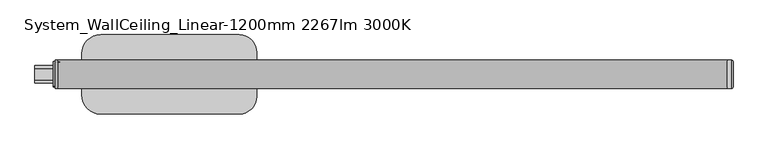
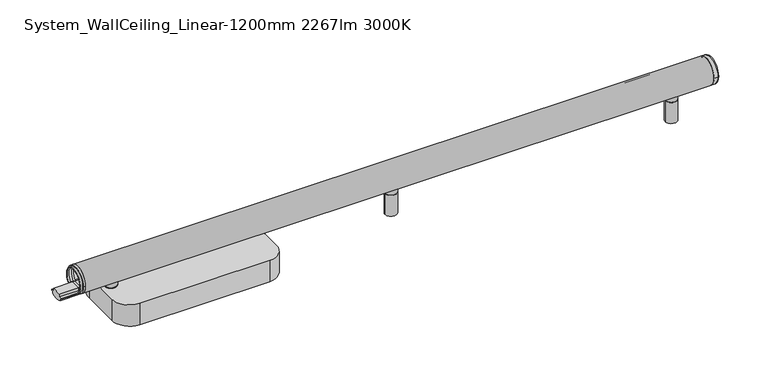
"""IFC4 building model written with IfcOpenShell, lengths in millimetres: light fixture geometry, ARTEMIDE-AoL-System-Linear_WallCeiling_US : System_WallCeiling_Linear-1200mm 2267lm 3000K."""

from ifc_helpers import new_model, si_unit, point, frame, frame_2d, origin, origin_with_axes, place, context, project, spatial, polyline, circle_curve, ellipse_curve, trimmed, segment, composite_curve, outline, extrude, source, transform, mapped, element, save
from ifc_brep_helpers import plane_surface, cylinder_surface, revolved_surface, advanced_brep


def system_wallceiling_linear_1200mm_2267lm_3000k_d70ca6ef(model_context):
    return source(origin(), model_context, "Body", "SolidModel", [
        advanced_brep(
        [(-2.0, 25.0245983, 74.9754017), (-2.0, -25.0245983, 74.9754017), (-2.0, -9.5062575, 60.6916114), (-2.0, -9.5062575, 64.3781516), (-2.0, 9.5062575, 64.3781516), (-2.0, 9.5062575, 60.6916114), (-2.0, 15.4273739, 60.6916114), (-2.0, 17.2867732, 60.6916114), (-2.0, -17.2867732, 60.6916114), (-2.0, -15.4273739, 60.6916114), (2.0, 25.0245983, 74.9754017), (2.0, -25.0245983, 74.9754017), (2.0, -9.5062575, 60.6916114), (2.0, -15.4273739, 60.6916114), (2.0, -17.2867732, 60.6916114), (2.0, 17.2867732, 60.6916114), (2.0, 15.4273739, 60.6916114), (2.0, 9.5062575, 60.6916114), (2.0, 9.5062575, 64.3781516), (2.0, -9.5062575, 64.3781516), (-6.0, -15.4273739, 60.6916114), (-6.0, -17.2867732, 60.6916114), (-6.0, 17.2867732, 60.6916114), (-6.0, 15.4273739, 60.6916114), (6.0, -15.4273739, 60.6916114), (6.0, 15.4273739, 60.6916114), (6.0, 17.2867732, 60.6916114), (6.0, -17.2867732, 60.6916114)],
        [
            (0, 1, circle_curve(frame((-2.0, 0.0, 74.9754017), z_axis=(-1.0, 0.0, 0.0), x_axis=(0.0, -1.0, 0.0)), 25.0245983)),
            (1, 0, circle_curve(frame((-2.0, 0.0, 74.9754017), z_axis=(-1.0, 0.0, 0.0), x_axis=(0.0, -1.0, 0.0)), 25.0245983)),
            (2, 3),
            (3, 4),
            (4, 5),
            (5, 6),
            (6, 7),
            (7, 8, circle_curve(frame((-2.0, 0.0, 74.9754017), z_axis=(1.0, 0.0, 0.0), x_axis=(0.0, -1.0, 0.0)), 22.4245221)),
            (8, 9),
            (9, 2),
            (10, 11, circle_curve(frame((2.0, 0.0, 74.9754017), z_axis=(1.0, 0.0, 0.0), x_axis=(0.0, -1.0, 0.0)), 25.0245983)),
            (11, 10, circle_curve(frame((2.0, 0.0, 74.9754017), z_axis=(1.0, 0.0, 0.0), x_axis=(0.0, -1.0, 0.0)), 25.0245983)),
            (12, 13),
            (13, 14),
            (14, 15, circle_curve(frame((2.0, 0.0, 74.9754017), z_axis=(-1.0, 0.0, 0.0), x_axis=(0.0, -1.0, 0.0)), 22.4245221)),
            (15, 16),
            (16, 17),
            (17, 18),
            (18, 19),
            (19, 12),
            (5, 17),
            (16, 6),
            (9, 13),
            (12, 2),
            (19, 3),
            (0, 10),
            (11, 1),
            (16, 13, circle_curve(frame((2.0, 0.0, 74.9754017), z_axis=(1.0, 0.0, 0.0), x_axis=(0.0, -1.0, 0.0)), 21.0245221)),
            (9, 6, circle_curve(frame((-2.0, 0.0, 74.9754017), z_axis=(-1.0, 0.0, 0.0), x_axis=(0.0, -1.0, 0.0)), 21.0245221)),
            (20, 21),
            (21, 22, circle_curve(frame((-6.0, 0.0, 74.9754017), z_axis=(-1.0, 0.0, 0.0), x_axis=(0.0, -1.0, 0.0)), 22.4245221)),
            (22, 23),
            (23, 20, circle_curve(frame((-6.0, 0.0, 74.9754017), z_axis=(1.0, 0.0, 0.0), x_axis=(0.0, -1.0, 0.0)), 21.0245221)),
            (24, 25, circle_curve(frame((6.0, 0.0, 74.9754017), z_axis=(-1.0, 0.0, 0.0), x_axis=(0.0, -1.0, 0.0)), 21.0245221)),
            (25, 26),
            (26, 27, circle_curve(frame((6.0, 0.0, 74.9754017), z_axis=(1.0, 0.0, 0.0), x_axis=(0.0, -1.0, 0.0)), 22.4245221)),
            (27, 24),
            (23, 6),
            (9, 20),
            (24, 13),
            (16, 25),
            (8, 21),
            (27, 14),
            (7, 22),
            (26, 15),
            (18, 4),
        ],
        [
            plane_surface(frame((-2.0, 0.0, 74.9754017), z_axis=(-1.0, 0.0, 0.0), x_axis=(0.0, 0.0, -1.0))),
            plane_surface(frame((2.0, 0.0, 74.9754017), z_axis=(1.0, 0.0, 0.0), x_axis=(0.0, 0.0, -1.0))),
            plane_surface(frame((-2.0, 9.5062575, 60.6916114), z_axis=(0.0, 0.0, 1.0), x_axis=(1.0, 0.0, 0.0))),
            plane_surface(frame((-2.0, -15.4273739, 60.6916114), z_axis=(0.0, 0.0, 1.0), x_axis=(1.0, 0.0, 0.0))),
            plane_surface(frame((-2.0, -9.5062575, 60.6916114), z_axis=(0.0, -1.0, 0.0), x_axis=(1.0, 0.0, 0.0))),
            cylinder_surface(frame((-2.0, 0.0, 74.9754017), z_axis=(-1.0, 0.0, 0.0), x_axis=(0.0, -1.0, 0.0)), 25.0245983),
            revolved_surface(polyline([(2.0, -21.0245221, 74.9754017), (-2.0, -21.0245221, 74.9754017)]), (-2.0, 0.0, 74.9754017), (1.0, 0.0, 0.0)),
            plane_surface(frame((-6.0, 0.0, 74.9754017), z_axis=(-1.0, 0.0, 0.0), x_axis=(0.0, 0.0, -1.0))),
            plane_surface(frame((6.0, 0.0, 74.9754017), z_axis=(1.0, 0.0, 0.0), x_axis=(0.0, 0.0, -1.0))),
            revolved_surface(polyline([(-2.0, -21.0245221, 74.9754017), (-6.0, -21.0245221, 74.9754017)]), (-6.0, 0.0, 74.9754017), (1.0, 0.0, 0.0)),
            revolved_surface(polyline([(6.0, -21.0245221, 74.9754017), (2.0, -21.0245221, 74.9754017)]), (-6.0, 0.0, 74.9754017), (1.0, 0.0, 0.0)),
            plane_surface(frame((-6.0, -15.4273739, 60.6916114), z_axis=(0.0, 0.0, -1.0), x_axis=(1.0, 0.0, 0.0))),
            cylinder_surface(frame((-6.0, 0.0, 74.9754017), z_axis=(-1.0, 0.0, 0.0), x_axis=(0.0, -1.0, 0.0)), 22.4245221),
            plane_surface(frame((-6.0, 17.2867732, 60.6916114), z_axis=(0.0, 0.0, -1.0), x_axis=(1.0, 0.0, 0.0))),
            plane_surface(frame((-2.0, -9.5062575, 64.3781516), z_axis=(0.0, 0.0, 1.0), x_axis=(1.0, 0.0, 0.0))),
            plane_surface(frame((-2.0, 9.5062575, 64.3781516), z_axis=(0.0, 1.0, 0.0), x_axis=(1.0, 0.0, 0.0))),
        ],
        [
            (0, [[1, 2], [3, 4, 5, 6, 7, 8, 9, 10]]),
            (1, [[11, 12], [13, 14, 15, 16, 17, 18, 19, 20]]),
            (2, [[-6, 21, -17, 22]]),
            (3, [[-10, 23, -13, 24]]),
            (4, [[-3, -24, -20, 25]]),
            (5, [[-1, 26, -12, 27]]),
            (6, [[-22, 28, -23, 29]]),
            (7, [[30, 31, 32, 33]]),
            (8, [[34, 35, 36, 37]]),
            (9, [[-33, 38, -29, 39]]),
            (10, [[-34, 40, -28, 41]]),
            (11, [[-30, -39, -9, 42]]),
            (11, [[-37, 43, -14, -40]]),
            (12, [[-31, -42, -8, 44]]),
            (12, [[-36, 45, -15, -43]]),
            (13, [[-32, -44, -7, -38]]),
            (13, [[-35, -41, -16, -45]]),
            (5, [[-2, -27, -11, -26]]),
            (14, [[-4, -25, -19, 46]]),
            (15, [[-5, -46, -18, -21]]),
        ],
    ),
        extrude(outline(composite_curve([segment(polyline([(-11.75, 57.2067494), (-15.304087, 57.2067494), (-15.304087, 58.7367744), (-9.5062575, 58.7367744), (-9.5062575, 64.3781516), (9.5062575, 64.3781516), (9.5062575, 58.7367744), (15.304087, 58.7367744), (15.304087, 57.2067494), (11.75, 57.2067494), (11.75, 52.880877)]), True, "CONTINUOUS"), segment(trimmed(circle_curve(frame_2d((0.0, 74.9754017)), 25.0245983), [point((11.75, 52.880877))], [point((-11.75, 52.880877))], False, "CARTESIAN"), True, "CONTINUOUS"), segment(polyline([(-11.75, 52.880877), (-11.75, 57.2067494)]), True, "CONTINUOUS")], self_intersect=False)), frame((2.0, 0.0, 0.0), z_axis=(1.0, 0.0, 0.0), x_axis=(0.0, 1.0, 0.0)), (0.0, 0.0, 1.0), 36.0),
        extrude(outline(composite_curve([segment(polyline([(-11.75, 57.2067494), (-15.304087, 57.2067494), (-15.304087, 58.7367744), (-9.5062575, 58.7367744), (-9.5062575, 64.3781516), (9.5062575, 64.3781516), (9.5062575, 58.7367744), (15.304087, 58.7367744), (15.304087, 57.2067494), (11.75, 57.2067494), (11.75, 52.880877)]), True, "CONTINUOUS"), segment(trimmed(circle_curve(frame_2d((0.0, 74.9754017)), 25.0245983), [point((11.75, 52.880877))], [point((-11.75, 52.880877))], False, "CARTESIAN"), True, "CONTINUOUS"), segment(polyline([(-11.75, 52.880877), (-11.75, 57.2067494)]), True, "CONTINUOUS")], self_intersect=False)), frame((-38.0, 0.0, 0.0), z_axis=(1.0, 0.0, 0.0), x_axis=(0.0, 1.0, 0.0)), (0.0, 0.0, 1.0), 36.0),
        advanced_brep(
        [(585.3054564, 0.0, 1.0), (594.6945436, 0.0, 1.0), (594.6945436, 0.0, 0.0), (585.3054564, 0.0, 0.0), (578.8054564, 0.0, 1.0), (601.1945436, 0.0, 1.0), (578.8054564, 0.0, 42.5), (601.1945436, 0.0, 42.5), (581.2810808, 0.0, 42.5), (598.7189192, 0.0, 42.5), (581.2810808, 0.0, 43.4995055), (598.7189192, 0.0, 43.4995055), (578.8054564, 0.0, 43.4995055), (601.1945436, 0.0, 43.4995055), (578.8054564, 0.0, 52.9333396), (601.1945436, 0.0, 52.9333396), (590.0, 0.0, 52.9333396), (590.0, 0.0, 0.0)],
        [
            (0, 1, circle_curve(frame((590.0, 0.0, 1.0), z_axis=(0.0, 0.0, -1.0), x_axis=(1.0, 0.0, 0.0)), 4.6945436)),
            (1, 2),
            (2, 3, circle_curve(frame((590.0, 0.0, 0.0), z_axis=(0.0, 0.0, 1.0), x_axis=(1.0, 0.0, 0.0)), 4.6945436)),
            (3, 0),
            (1, 0, circle_curve(frame((590.0, 0.0, 1.0), z_axis=(0.0, 0.0, -1.0), x_axis=(1.0, 0.0, 0.0)), 4.6945436)),
            (3, 2, circle_curve(frame((590.0, 0.0, 0.0), z_axis=(0.0, 0.0, 1.0), x_axis=(1.0, 0.0, 0.0)), 4.6945436)),
            (4, 5, circle_curve(frame((590.0, 0.0, 1.0), z_axis=(0.0, 0.0, -1.0), x_axis=(1.0, 0.0, 0.0)), 11.1945436)),
            (5, 1),
            (0, 4),
            (5, 4, circle_curve(frame((590.0, 0.0, 1.0), z_axis=(0.0, 0.0, -1.0), x_axis=(1.0, 0.0, 0.0)), 11.1945436)),
            (6, 7, circle_curve(frame((590.0, 0.0, 42.5), z_axis=(0.0, 0.0, -1.0), x_axis=(1.0, 0.0, 0.0)), 11.1945436)),
            (7, 5),
            (4, 6),
            (7, 6, circle_curve(frame((590.0, 0.0, 42.5), z_axis=(0.0, 0.0, -1.0), x_axis=(1.0, 0.0, 0.0)), 11.1945436)),
            (8, 9, circle_curve(frame((590.0, 0.0, 42.5), z_axis=(0.0, 0.0, -1.0), x_axis=(1.0, 0.0, 0.0)), 8.7189192)),
            (9, 7),
            (6, 8),
            (9, 8, circle_curve(frame((590.0, 0.0, 42.5), z_axis=(0.0, 0.0, -1.0), x_axis=(1.0, 0.0, 0.0)), 8.7189192)),
            (10, 11, circle_curve(frame((590.0, 0.0, 43.4995055), z_axis=(0.0, 0.0, -1.0), x_axis=(1.0, 0.0, 0.0)), 8.7189192)),
            (11, 9),
            (8, 10),
            (11, 10, circle_curve(frame((590.0, 0.0, 43.4995055), z_axis=(0.0, 0.0, -1.0), x_axis=(1.0, 0.0, 0.0)), 8.7189192)),
            (12, 13, circle_curve(frame((590.0, 0.0, 43.4995055), z_axis=(0.0, 0.0, -1.0), x_axis=(1.0, 0.0, 0.0)), 11.1945436)),
            (13, 11),
            (10, 12),
            (13, 12, circle_curve(frame((590.0, 0.0, 43.4995055), z_axis=(0.0, 0.0, -1.0), x_axis=(1.0, 0.0, 0.0)), 11.1945436)),
            (14, 15, circle_curve(frame((590.0, 0.0, 52.9333396), z_axis=(0.0, 0.0, -1.0), x_axis=(1.0, 0.0, 0.0)), 11.1945436)),
            (15, 13),
            (12, 14),
            (15, 14, circle_curve(frame((590.0, 0.0, 52.9333396), z_axis=(0.0, 0.0, -1.0), x_axis=(1.0, 0.0, 0.0)), 11.1945436)),
            (16, 15),
            (14, 16),
            (2, 17),
            (17, 3),
        ],
        [
            cylinder_surface(frame((590.0, 0.0, -58.83358), z_axis=(0.0, 0.0, 1.0), x_axis=(1.0, 0.0, 0.0)), 4.6945436),
            plane_surface(frame((590.0, 0.0, 1.0), z_axis=(0.0, 0.0, -1.0), x_axis=(1.0, 0.0, 0.0))),
            cylinder_surface(frame((590.0, 0.0, -58.83358), z_axis=(0.0, 0.0, 1.0), x_axis=(1.0, 0.0, 0.0)), 11.1945436),
            plane_surface(frame((590.0, 0.0, 42.5), z_axis=(0.0, 0.0, 1.0), x_axis=(1.0, 0.0, 0.0))),
            cylinder_surface(frame((590.0, 0.0, -58.83358), z_axis=(0.0, 0.0, 1.0), x_axis=(1.0, 0.0, 0.0)), 8.7189192),
            plane_surface(frame((590.0, 0.0, 43.4995055), z_axis=(0.0, 0.0, -1.0), x_axis=(1.0, 0.0, 0.0))),
            plane_surface(frame((590.0, 0.0, 52.9333396), z_axis=(0.0, 0.0, 1.0), x_axis=(1.0, 0.0, 0.0))),
            plane_surface(frame((590.0, 0.0, 0.0), z_axis=(0.0, 0.0, -1.0), x_axis=(1.0, 0.0, 0.0))),
        ],
        [
            (0, [[1, 2, 3, 4]]),
            (0, [[5, -4, 6, -2]]),
            (1, [[7, 8, -1, 9]]),
            (1, [[10, -9, -5, -8]]),
            (2, [[11, 12, -7, 13]]),
            (2, [[14, -13, -10, -12]]),
            (3, [[15, 16, -11, 17]]),
            (3, [[18, -17, -14, -16]]),
            (4, [[19, 20, -15, 21]]),
            (4, [[22, -21, -18, -20]]),
            (5, [[23, 24, -19, 25]]),
            (5, [[26, -25, -22, -24]]),
            (2, [[27, 28, -23, 29]]),
            (2, [[30, -29, -26, -28]]),
            (6, [[31, -27, 32]]),
            (6, [[-32, -30, -31]]),
            (7, [[-3, 33, 34]]),
            (7, [[-6, -34, -33]]),
        ],
    ),
        advanced_brep(
        [(59.3054564, 0.0, 1.0), (68.6945436, 0.0, 1.0), (68.6945436, 0.0, 0.0), (59.3054564, 0.0, 0.0), (52.8054564, 0.0, 1.0), (75.1945436, 0.0, 1.0), (52.8054564, 0.0, 42.5), (75.1945436, 0.0, 42.5), (55.2810808, 0.0, 42.5), (72.7189192, 0.0, 42.5), (55.2810808, 0.0, 43.4995055), (72.7189192, 0.0, 43.4995055), (52.8054564, 0.0, 43.4995055), (75.1945436, 0.0, 43.4995055), (52.8054564, 0.0, 52.9333396), (75.1945436, 0.0, 52.9333396), (64.0, 0.0, 52.9333396), (64.0, 0.0, 0.0)],
        [
            (0, 1, circle_curve(frame((64.0, 0.0, 1.0), z_axis=(0.0, 0.0, -1.0), x_axis=(1.0, 0.0, 0.0)), 4.6945436)),
            (1, 2),
            (2, 3, circle_curve(frame((64.0, 0.0, 0.0), z_axis=(0.0, 0.0, 1.0), x_axis=(1.0, 0.0, 0.0)), 4.6945436)),
            (3, 0),
            (1, 0, circle_curve(frame((64.0, 0.0, 1.0), z_axis=(0.0, 0.0, -1.0), x_axis=(1.0, 0.0, 0.0)), 4.6945436)),
            (3, 2, circle_curve(frame((64.0, 0.0, 0.0), z_axis=(0.0, 0.0, 1.0), x_axis=(1.0, 0.0, 0.0)), 4.6945436)),
            (4, 5, circle_curve(frame((64.0, 0.0, 1.0), z_axis=(0.0, 0.0, -1.0), x_axis=(1.0, 0.0, 0.0)), 11.1945436)),
            (5, 1),
            (0, 4),
            (5, 4, circle_curve(frame((64.0, 0.0, 1.0), z_axis=(0.0, 0.0, -1.0), x_axis=(1.0, 0.0, 0.0)), 11.1945436)),
            (6, 7, circle_curve(frame((64.0, 0.0, 42.5), z_axis=(0.0, 0.0, -1.0), x_axis=(1.0, 0.0, 0.0)), 11.1945436)),
            (7, 5),
            (4, 6),
            (7, 6, circle_curve(frame((64.0, 0.0, 42.5), z_axis=(0.0, 0.0, -1.0), x_axis=(1.0, 0.0, 0.0)), 11.1945436)),
            (8, 9, circle_curve(frame((64.0, 0.0, 42.5), z_axis=(0.0, 0.0, -1.0), x_axis=(1.0, 0.0, 0.0)), 8.7189192)),
            (9, 7),
            (6, 8),
            (9, 8, circle_curve(frame((64.0, 0.0, 42.5), z_axis=(0.0, 0.0, -1.0), x_axis=(1.0, 0.0, 0.0)), 8.7189192)),
            (10, 11, circle_curve(frame((64.0, 0.0, 43.4995055), z_axis=(0.0, 0.0, -1.0), x_axis=(1.0, 0.0, 0.0)), 8.7189192)),
            (11, 9),
            (8, 10),
            (11, 10, circle_curve(frame((64.0, 0.0, 43.4995055), z_axis=(0.0, 0.0, -1.0), x_axis=(1.0, 0.0, 0.0)), 8.7189192)),
            (12, 13, circle_curve(frame((64.0, 0.0, 43.4995055), z_axis=(0.0, 0.0, -1.0), x_axis=(1.0, 0.0, 0.0)), 11.1945436)),
            (13, 11),
            (10, 12),
            (13, 12, circle_curve(frame((64.0, 0.0, 43.4995055), z_axis=(0.0, 0.0, -1.0), x_axis=(1.0, 0.0, 0.0)), 11.1945436)),
            (14, 15, circle_curve(frame((64.0, 0.0, 52.9333396), z_axis=(0.0, 0.0, -1.0), x_axis=(1.0, 0.0, 0.0)), 11.1945436)),
            (15, 13),
            (12, 14),
            (15, 14, circle_curve(frame((64.0, 0.0, 52.9333396), z_axis=(0.0, 0.0, -1.0), x_axis=(1.0, 0.0, 0.0)), 11.1945436)),
            (16, 15),
            (14, 16),
            (2, 17),
            (17, 3),
        ],
        [
            cylinder_surface(frame((64.0, 0.0, -58.83358), z_axis=(0.0, 0.0, 1.0), x_axis=(1.0, 0.0, 0.0)), 4.6945436),
            plane_surface(frame((64.0, 0.0, 1.0), z_axis=(0.0, 0.0, -1.0), x_axis=(1.0, 0.0, 0.0))),
            cylinder_surface(frame((64.0, 0.0, -58.83358), z_axis=(0.0, 0.0, 1.0), x_axis=(1.0, 0.0, 0.0)), 11.1945436),
            plane_surface(frame((64.0, 0.0, 42.5), z_axis=(0.0, 0.0, 1.0), x_axis=(1.0, 0.0, 0.0))),
            cylinder_surface(frame((64.0, 0.0, -58.83358), z_axis=(0.0, 0.0, 1.0), x_axis=(1.0, 0.0, 0.0)), 8.7189192),
            plane_surface(frame((64.0, 0.0, 43.4995055), z_axis=(0.0, 0.0, -1.0), x_axis=(1.0, 0.0, 0.0))),
            plane_surface(frame((64.0, 0.0, 52.9333396), z_axis=(0.0, 0.0, 1.0), x_axis=(1.0, 0.0, 0.0))),
            plane_surface(frame((64.0, 0.0, 0.0), z_axis=(0.0, 0.0, -1.0), x_axis=(1.0, 0.0, 0.0))),
        ],
        [
            (0, [[1, 2, 3, 4]]),
            (0, [[5, -4, 6, -2]]),
            (1, [[7, 8, -1, 9]]),
            (1, [[10, -9, -5, -8]]),
            (2, [[11, 12, -7, 13]]),
            (2, [[14, -13, -10, -12]]),
            (3, [[15, 16, -11, 17]]),
            (3, [[18, -17, -14, -16]]),
            (4, [[19, 20, -15, 21]]),
            (4, [[22, -21, -18, -20]]),
            (5, [[23, 24, -19, 25]]),
            (5, [[26, -25, -22, -24]]),
            (2, [[27, 28, -23, 29]]),
            (2, [[30, -29, -26, -28]]),
            (6, [[31, -27, 32]]),
            (6, [[-32, -30, -31]]),
            (7, [[-3, 33, 34]]),
            (7, [[-6, -34, -33]]),
        ],
    ),
        advanced_brep(
        [(1111.3054564, 0.0, 1.0), (1120.6945436, 0.0, 1.0), (1120.6945436, 0.0, 0.0), (1111.3054564, 0.0, 0.0), (1104.8054564, 0.0, 1.0), (1127.1945436, 0.0, 1.0), (1104.8054564, 0.0, 42.5), (1127.1945436, 0.0, 42.5), (1107.2810808, 0.0, 42.5), (1124.7189192, 0.0, 42.5), (1107.2810808, 0.0, 43.4995055), (1124.7189192, 0.0, 43.4995055), (1104.8054564, 0.0, 43.4995055), (1127.1945436, 0.0, 43.4995055), (1104.8054564, 0.0, 52.9333396), (1127.1945436, 0.0, 52.9333396), (1116.0, 0.0, 52.9333396), (1116.0, 0.0, 0.0)],
        [
            (0, 1, circle_curve(frame((1116.0, 0.0, 1.0), z_axis=(0.0, 0.0, -1.0), x_axis=(1.0, 0.0, 0.0)), 4.6945436)),
            (1, 2),
            (2, 3, circle_curve(frame((1116.0, 0.0, 0.0), z_axis=(0.0, 0.0, 1.0), x_axis=(1.0, 0.0, 0.0)), 4.6945436)),
            (3, 0),
            (1, 0, circle_curve(frame((1116.0, 0.0, 1.0), z_axis=(0.0, 0.0, -1.0), x_axis=(1.0, 0.0, 0.0)), 4.6945436)),
            (3, 2, circle_curve(frame((1116.0, 0.0, 0.0), z_axis=(0.0, 0.0, 1.0), x_axis=(1.0, 0.0, 0.0)), 4.6945436)),
            (4, 5, circle_curve(frame((1116.0, 0.0, 1.0), z_axis=(0.0, 0.0, -1.0), x_axis=(1.0, 0.0, 0.0)), 11.1945436)),
            (5, 1),
            (0, 4),
            (5, 4, circle_curve(frame((1116.0, 0.0, 1.0), z_axis=(0.0, 0.0, -1.0), x_axis=(1.0, 0.0, 0.0)), 11.1945436)),
            (6, 7, circle_curve(frame((1116.0, 0.0, 42.5), z_axis=(0.0, 0.0, -1.0), x_axis=(1.0, 0.0, 0.0)), 11.1945436)),
            (7, 5),
            (4, 6),
            (7, 6, circle_curve(frame((1116.0, 0.0, 42.5), z_axis=(0.0, 0.0, -1.0), x_axis=(1.0, 0.0, 0.0)), 11.1945436)),
            (8, 9, circle_curve(frame((1116.0, 0.0, 42.5), z_axis=(0.0, 0.0, -1.0), x_axis=(1.0, 0.0, 0.0)), 8.7189192)),
            (9, 7),
            (6, 8),
            (9, 8, circle_curve(frame((1116.0, 0.0, 42.5), z_axis=(0.0, 0.0, -1.0), x_axis=(1.0, 0.0, 0.0)), 8.7189192)),
            (10, 11, circle_curve(frame((1116.0, 0.0, 43.4995055), z_axis=(0.0, 0.0, -1.0), x_axis=(1.0, 0.0, 0.0)), 8.7189192)),
            (11, 9),
            (8, 10),
            (11, 10, circle_curve(frame((1116.0, 0.0, 43.4995055), z_axis=(0.0, 0.0, -1.0), x_axis=(1.0, 0.0, 0.0)), 8.7189192)),
            (12, 13, circle_curve(frame((1116.0, 0.0, 43.4995055), z_axis=(0.0, 0.0, -1.0), x_axis=(1.0, 0.0, 0.0)), 11.1945436)),
            (13, 11),
            (10, 12),
            (13, 12, circle_curve(frame((1116.0, 0.0, 43.4995055), z_axis=(0.0, 0.0, -1.0), x_axis=(1.0, 0.0, 0.0)), 11.1945436)),
            (14, 15, circle_curve(frame((1116.0, 0.0, 52.9333396), z_axis=(0.0, 0.0, -1.0), x_axis=(1.0, 0.0, 0.0)), 11.1945436)),
            (15, 13),
            (12, 14),
            (15, 14, circle_curve(frame((1116.0, 0.0, 52.9333396), z_axis=(0.0, 0.0, -1.0), x_axis=(1.0, 0.0, 0.0)), 11.1945436)),
            (16, 15),
            (14, 16),
            (2, 17),
            (17, 3),
        ],
        [
            cylinder_surface(frame((1116.0, 0.0, -58.83358), z_axis=(0.0, 0.0, 1.0), x_axis=(1.0, 0.0, 0.0)), 4.6945436),
            plane_surface(frame((1116.0, 0.0, 1.0), z_axis=(0.0, 0.0, -1.0), x_axis=(1.0, 0.0, 0.0))),
            cylinder_surface(frame((1116.0, 0.0, -58.83358), z_axis=(0.0, 0.0, 1.0), x_axis=(1.0, 0.0, 0.0)), 11.1945436),
            plane_surface(frame((1116.0, 0.0, 42.5), z_axis=(0.0, 0.0, 1.0), x_axis=(1.0, 0.0, 0.0))),
            cylinder_surface(frame((1116.0, 0.0, -58.83358), z_axis=(0.0, 0.0, 1.0), x_axis=(1.0, 0.0, 0.0)), 8.7189192),
            plane_surface(frame((1116.0, 0.0, 43.4995055), z_axis=(0.0, 0.0, -1.0), x_axis=(1.0, 0.0, 0.0))),
            plane_surface(frame((1116.0, 0.0, 52.9333396), z_axis=(0.0, 0.0, 1.0), x_axis=(1.0, 0.0, 0.0))),
            plane_surface(frame((1116.0, 0.0, 0.0), z_axis=(0.0, 0.0, -1.0), x_axis=(1.0, 0.0, 0.0))),
        ],
        [
            (0, [[1, 2, 3, 4]]),
            (0, [[5, -4, 6, -2]]),
            (1, [[7, 8, -1, 9]]),
            (1, [[10, -9, -5, -8]]),
            (2, [[11, 12, -7, 13]]),
            (2, [[14, -13, -10, -12]]),
            (3, [[15, 16, -11, 17]]),
            (3, [[18, -17, -14, -16]]),
            (4, [[19, 20, -15, 21]]),
            (4, [[22, -21, -18, -20]]),
            (5, [[23, 24, -19, 25]]),
            (5, [[26, -25, -22, -24]]),
            (2, [[27, 28, -23, 29]]),
            (2, [[30, -29, -26, -28]]),
            (6, [[31, -27, 32]]),
            (6, [[-32, -30, -31]]),
            (7, [[-3, 33, 34]]),
            (7, [[-6, -34, -33]]),
        ],
    ),
        advanced_brep(
        [(1192.0, -22.0, 75.0), (1192.0, 22.0, 75.0), (1182.0, 25.0, 75.0), (1182.0, -25.0, 75.0), (1189.0, -25.0, 75.0), (1189.0, 25.0, 75.0)],
        [
            (0, 1, circle_curve(frame((1192.0, 0.0, 75.0), z_axis=(1.0, 0.0, 0.0), x_axis=(0.0, 1.0, 0.0)), 22.0)),
            (1, 0, circle_curve(frame((1192.0, 0.0, 75.0), z_axis=(1.0, 0.0, 0.0), x_axis=(0.0, -1.0, 0.0)), 22.0)),
            (2, 3, circle_curve(frame((1182.0, 0.0, 75.0), z_axis=(-1.0, 0.0, 0.0), x_axis=(0.0, 0.0, 1.0)), 25.0)),
            (3, 2, circle_curve(frame((1182.0, 0.0, 75.0), z_axis=(-1.0, 0.0, 0.0), x_axis=(0.0, 0.0, 1.0)), 25.0)),
            (3, 4),
            (4, 5, circle_curve(frame((1189.0, 0.0, 75.0), z_axis=(-1.0, 0.0, 0.0), x_axis=(0.0, 0.0, 1.0)), 25.0)),
            (5, 2),
            (5, 4, circle_curve(frame((1189.0, 0.0, 75.0), z_axis=(-1.0, 0.0, 0.0), x_axis=(0.0, 0.0, 1.0)), 25.0)),
            (0, 4, circle_curve(frame((1189.0, -22.0, 75.0), z_axis=(0.0, 0.0, -1.0), x_axis=(0.0, -1.0, 0.0)), 3.0)),
            (5, 1, circle_curve(frame((1189.0, 22.0, 75.0), z_axis=(0.0, 0.0, -1.0), x_axis=(0.0, 1.0, 0.0)), 3.0)),
        ],
        [
            plane_surface(frame((1192.0, 0.0, 100.0), z_axis=(1.0, 0.0, 0.0), x_axis=(0.0, -1.0, 0.0))),
            plane_surface(frame((1182.0, 0.0, 100.0), z_axis=(-1.0, 0.0, 0.0), x_axis=(0.0, 1.0, 0.0))),
            cylinder_surface(frame((1182.0, 0.0, 75.0), z_axis=(1.0, 0.0, 0.0), x_axis=(0.0, 0.0, 1.0)), 25.0),
            revolved_surface(trimmed(ellipse_curve(frame((1189.0, 22.0, 75.0), z_axis=(0.0, 0.0, 1.0), x_axis=(0.0, 1.0, 0.0)), 3.0, 3.0), [point((1192.0, 22.0, 75.0))], [point((1189.0, 25.0, 75.0))], True, "CARTESIAN"), (1192.0, 0.0, 75.0), (-1.0, 0.0, 0.0)),
            revolved_surface(trimmed(ellipse_curve(frame((1189.0, -22.0, 75.0), z_axis=(0.0, 0.0, -1.0), x_axis=(0.0, -1.0, 0.0)), 3.0, 3.0), [point((1192.0, -22.0, 75.0))], [point((1189.0, -25.0, 75.0))], True, "CARTESIAN"), (1192.0, 0.0, 75.0), (-1.0, 0.0, 0.0)),
        ],
        [
            (0, [[1, 2]]),
            (1, [[3, 4]]),
            (2, [[-4, 5, 6, 7]]),
            (2, [[-3, -7, 8, -5]]),
            (3, [[9, -8, 10, -1]]),
            (4, [[-9, -2, -10, -6]]),
        ],
    ),
        extrude(outline(composite_curve([segment(trimmed(circle_curve(frame_2d((0.0, 75.0)), 25.0), [point((-11.75, 52.9333396))], [point((11.75, 52.9333396))], False, "CARTESIAN"), True, "CONTINUOUS"), segment(polyline([(11.75, 52.9333396), (11.75, 57.259212), (13.667754, 57.259212), (13.667754, 55.8288843), (15.617754, 57.2440748), (15.617754, 59.244074), (12.667754, 59.244074), (12.667754, 60.744074), (17.2779794, 60.744074)]), True, "CONTINUOUS"), segment(trimmed(circle_curve(frame_2d((0.0, 75.0)), 22.4), [point((17.2779794, 60.744074))], [point((-17.2779794, 60.744074))], True, "CARTESIAN"), True, "CONTINUOUS"), segment(polyline([(-17.2779794, 60.744074), (-12.667754, 60.744074), (-12.667754, 59.244074), (-15.617754, 59.244074), (-15.617754, 57.2440748), (-13.667754, 55.8288843), (-13.667754, 57.259212), (-11.75, 57.259212), (-11.75, 52.9333396)]), True, "CONTINUOUS")], self_intersect=False)), frame((2.0, 0.0, 0.0), z_axis=(1.0, 0.0, 0.0), x_axis=(0.0, 1.0, 0.0)), (0.0, 0.0, 1.0), 1180.0),
        extrude(outline(composite_curve([segment(trimmed(circle_curve(frame_2d((0.0, 75.0)), 25.0), [point((11.75, 52.9333396))], [point((-11.75, 52.9333396))], False, "CARTESIAN"), True, "CONTINUOUS"), segment(polyline([(-11.75, 52.9333396), (-11.75, 57.259212), (-15.304087, 57.259212), (-15.304087, 58.785971), (-9.5062575, 58.785971), (-9.5062575, 64.4273482), (9.5062575, 64.4273482), (9.5062575, 58.785971), (15.304087, 58.785971), (15.304087, 57.259212), (11.75, 57.259212), (11.75, 52.9333396)]), True, "CONTINUOUS")], self_intersect=False)), frame((38.0, 0.0, 0.0), z_axis=(1.0, 0.0, 0.0), x_axis=(0.0, 1.0, 0.0)), (0.0, 0.0, 1.0), 1144.0),
        extrude(outline(composite_curve([segment(polyline([(77.8708919, 70.0), (321.7624415, 70.0)]), True, "CONTINUOUS"), segment(trimmed(circle_curve(frame_2d((321.7624415, 39.1291081)), 30.8708919), [point((321.7624415, 70.0))], [point((352.6333333, 39.1291081))], False, "CARTESIAN"), True, "CONTINUOUS"), segment(polyline([(352.6333333, 39.1291081), (352.6333333, -39.1500001)]), True, "CONTINUOUS"), segment(trimmed(circle_curve(frame_2d((321.7624415, -39.1500001)), 30.8708919), [point((352.6333333, -39.1500001))], [point((321.7624415, -70.020892))], False, "CARTESIAN"), True, "CONTINUOUS"), segment(polyline([(321.7624415, -70.020892), (77.8708919, -70.020892)]), True, "CONTINUOUS"), segment(trimmed(circle_curve(frame_2d((77.8708919, -36.4833335)), 33.5375585), [point((77.8708919, -70.020892))], [point((44.3333333, -36.4833335))], False, "CARTESIAN"), True, "CONTINUOUS"), segment(polyline([(44.3333333, -36.4833335), (44.3333333, 36.4624415)]), True, "CONTINUOUS"), segment(trimmed(circle_curve(frame_2d((77.8708919, 36.4624415)), 33.5375585), [point((44.3333333, 36.4624415))], [point((77.8708919, 70.0))], False, "CARTESIAN"), True, "CONTINUOUS")], self_intersect=False)), origin_with_axes(), (0.0, 0.0, 1.0), 42.0),
    ])


if __name__ == "__main__":
    model = new_model("IFC4")
    model_context = context("Model", 3, world=origin())
    ifc_project = project(units=[si_unit("LENGTHUNIT", "METRE", prefix="MILLI")], contexts=[model_context])
    site = spatial("IfcSite", under=ifc_project)
    building = spatial("IfcBuilding", under=site)
    placement = place(None, origin())
    system_wallceiling_linear_1200mm_2267lm_3000k_shape = system_wallceiling_linear_1200mm_2267lm_3000k_d70ca6ef(model_context)
    element("IfcLightFixture", 1, ObjectType="ARTEMIDE-AoL-System-Linear_WallCeiling_US : System_WallCeiling_Linear-1200mm 2267lm 3000K", at=placement, inside=building, context=model_context, shape_type="MappedRepresentation", body=[
        mapped(system_wallceiling_linear_1200mm_2267lm_3000k_shape, transform((0.0, 0.0, 0.0), x_axis=(1.0, 0.0, 0.0), y_axis=(0.0, 1.0, 0.0), z_axis=(0.0, 0.0, 1.0))),
    ])
    save(model, "model.ifc")
